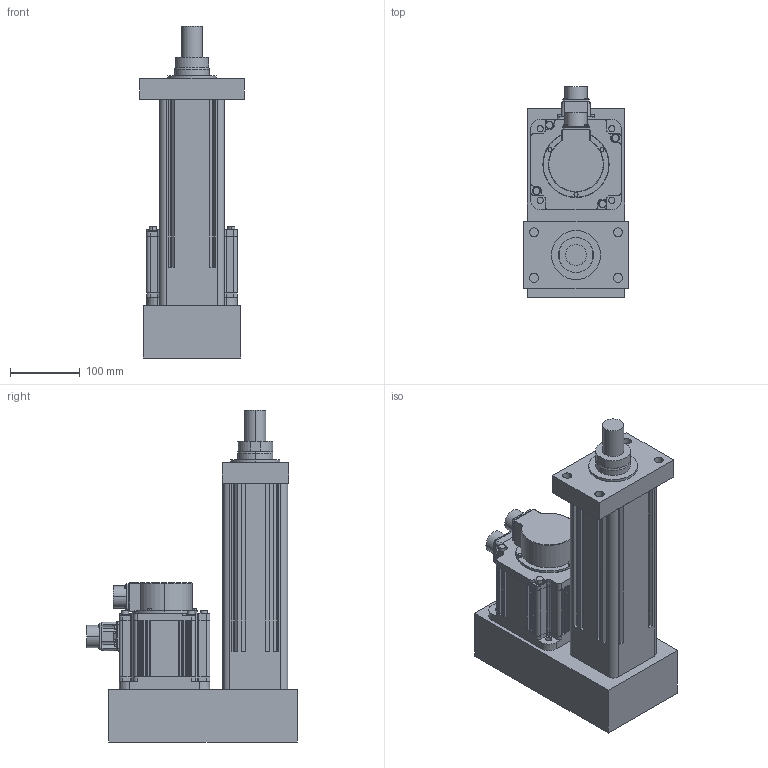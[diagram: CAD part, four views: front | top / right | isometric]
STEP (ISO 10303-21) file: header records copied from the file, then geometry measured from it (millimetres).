
FILE_DESCRIPTION (( 'STEP AP203' ), '1' );
FILE_NAME ('S4殏殿ヶ楊擘假蚾.STEP', '2024-05-27T05:27:35', ( '' ), ( '' ), 'SwSTEP 2.0', 'SolidWorks 2018', '' );
FILE_SCHEMA (( 'CONFIG_CONTROL_DESIGN' ));
Length unit declared in the file: millimetre
Products named in the file (3): S4殏殿ヶ楊擘; S4殏殿ヶ楊擘假蚾; ECMA-FX1308ES-130框號系列機種-0.85KW高慣量系列
Assembly tree (2 placements, depth 2):
  S4殏殿ヶ楊擘假蚾
    S4殏殿ヶ楊擘
    ECMA-FX1308ES-130框號系列機種-0.85KW高慣量系列
Bounding box: 150 x 301.44 x 475 mm (x, y, z)
Volume: 6370739.6 mm3; surface area: 603371.6 mm2
Topology: 3 solids, 15 shells, 918 faces, 2190 edges, 1358 vertices
Faces by surface type: plane 402, cylinder 347, cone 101, torus 47, sphere 20, bspline 1
Entity records: 27446 total; most frequent: CARTESIAN_POINT 5327, DIRECTION 4824, ORIENTED_EDGE 4376, EDGE_CURVE 2188, AXIS2_PLACEMENT_3D 1794, VERTEX_POINT 1358, VECTOR 1236, LINE 1236
